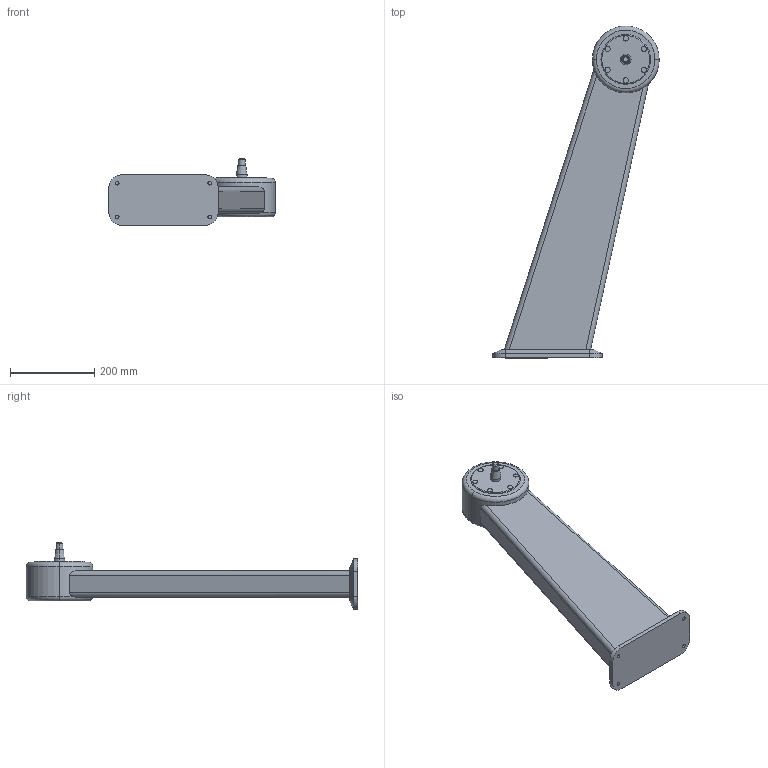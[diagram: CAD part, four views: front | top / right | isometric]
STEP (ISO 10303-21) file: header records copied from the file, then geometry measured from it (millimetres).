
FILE_DESCRIPTION (( 'STEP AP214' ), '1' );
FILE_NAME ('WP700_H710_-15.STEP', '2014-08-14T10:03:06', ( '' ), ( '' ), 'SwSTEP 2.0', 'SolidWorks 2014', '' );
FILE_SCHEMA (( 'AUTOMOTIVE_DESIGN' ));
Length unit declared in the file: millimetre
Products named in the file (1): WP700_H710_-15
Bounding box: 395.69 x 789.5 x 158.3 mm (x, y, z)
Volume: 9071669.6 mm3; surface area: 420176.4 mm2
Topology: 1 solids, 1 shells, 79 faces, 171 edges, 108 vertices
Faces by surface type: cylinder 36, plane 29, cone 8, torus 6
Entity records: 2294 total; most frequent: CARTESIAN_POINT 475, DIRECTION 408, ORIENTED_EDGE 342, EDGE_CURVE 171, AXIS2_PLACEMENT_3D 167, VERTEX_POINT 108, EDGE_LOOP 93, CIRCLE 87
